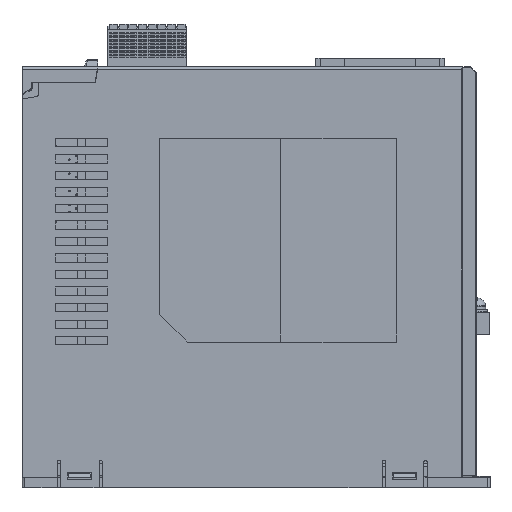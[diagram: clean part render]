
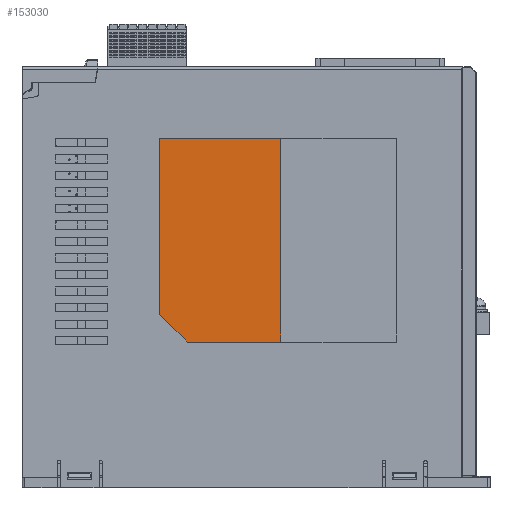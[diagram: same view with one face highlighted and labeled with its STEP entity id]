
A CAD part, left-side view. The second image highlights one B-rep face of the part: STEP entity #153030.
In plain terms, the highlighted planar face has unit normal (-1, 0, 0).
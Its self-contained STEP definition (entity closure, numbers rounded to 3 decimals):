
#55837=DIRECTION('',(0.,0.,-1.));
#55838=VECTOR('',#55837,74.);
#55839=CARTESIAN_POINT('',(-20.2,-14.,127.));
#55840=LINE('',#55839,#55838);
#55841=DIRECTION('',(0.,1.,0.));
#55842=VECTOR('',#55841,34.);
#55843=CARTESIAN_POINT('',(-20.2,-14.,53.));
#55844=LINE('',#55843,#55842);
#55845=DIRECTION('',(0.,0.707,0.707));
#55846=VECTOR('',#55845,14.142);
#55847=CARTESIAN_POINT('',(-20.2,20.,53.));
#55848=LINE('',#55847,#55846);
#55849=DIRECTION('',(0.,0.,1.));
#55850=VECTOR('',#55849,64.);
#55851=CARTESIAN_POINT('',(-20.2,30.,63.));
#55852=LINE('',#55851,#55850);
#55853=DIRECTION('',(0.,-1.,0.));
#55854=VECTOR('',#55853,44.);
#55855=CARTESIAN_POINT('',(-20.2,30.,127.));
#55856=LINE('',#55855,#55854);
#65942=CARTESIAN_POINT('',(-20.2,-14.,127.));
#65943=VERTEX_POINT('',#65942);
#65944=CARTESIAN_POINT('',(-20.2,30.,127.));
#65945=VERTEX_POINT('',#65944);
#65946=CARTESIAN_POINT('',(-20.2,-14.,53.));
#65947=VERTEX_POINT('',#65946);
#65952=CARTESIAN_POINT('',(-20.2,20.,53.));
#65953=VERTEX_POINT('',#65952);
#65954=CARTESIAN_POINT('',(-20.2,30.,63.));
#65955=VERTEX_POINT('',#65954);
#153015=CARTESIAN_POINT('',(-20.2,0.,0.));
#153016=DIRECTION('',(-1.,0.,0.));
#153017=DIRECTION('',(0.,0.,1.));
#153018=AXIS2_PLACEMENT_3D('',#153015,#153016,#153017);
#153019=PLANE('',#153018);
#153020=ORIENTED_EDGE('',*,*,#153001,.T.);
#153022=ORIENTED_EDGE('',*,*,#153021,.T.);
#153024=ORIENTED_EDGE('',*,*,#153023,.T.);
#153026=ORIENTED_EDGE('',*,*,#153025,.T.);
#153027=ORIENTED_EDGE('',*,*,#152988,.T.);
#153028=EDGE_LOOP('',(#153020,#153022,#153024,#153026,#153027));
#153029=FACE_OUTER_BOUND('',#153028,.F.);
#153030=ADVANCED_FACE('',(#153029),#153019,.T.);
#152988=EDGE_CURVE('',#65945,#65943,#55856,.T.);
#153001=EDGE_CURVE('',#65943,#65947,#55840,.T.);
#153021=EDGE_CURVE('',#65947,#65953,#55844,.T.);
#153023=EDGE_CURVE('',#65953,#65955,#55848,.T.);
#153025=EDGE_CURVE('',#65955,#65945,#55852,.T.);
